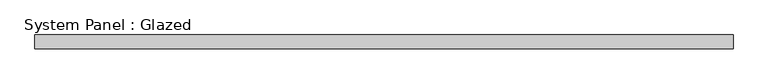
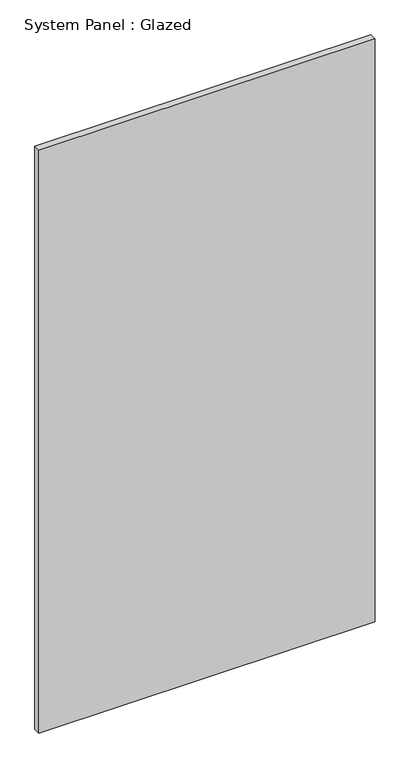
"""IFC4 building model written with IfcOpenShell, lengths in millimetres: plate geometry, System Panel : Glazed."""

from ifc_helpers import new_model, si_unit, origin, origin_with_axes, place, context, project, spatial, polyline, outline, extrude, source, transform, mapped, element, save


def system_panel_glazed_de5b064a(model_context):
    return source(origin(), model_context, "Body", "SweptSolid", [
        extrude(outline(polyline([(638.175, -44.45), (-638.175, -44.45), (-638.175, -19.05), (638.175, -19.05), (638.175, -44.45)])), origin_with_axes(), (0.0, 0.0, 1.0), 2336.8),
    ])


if __name__ == "__main__":
    model = new_model("IFC4")
    model_context = context("Model", 3, world=origin())
    ifc_project = project(units=[si_unit("LENGTHUNIT", "METRE", prefix="MILLI")], contexts=[model_context])
    site = spatial("IfcSite", under=ifc_project)
    building = spatial("IfcBuilding", under=site)
    placement = place(None, origin())
    system_panel_glazed_shape = system_panel_glazed_de5b064a(model_context)
    element("IfcPlate", 1, ObjectType="System Panel : Glazed", at=placement, inside=building, context=model_context, shape_type="MappedRepresentation", body=[
        mapped(system_panel_glazed_shape, transform((0.0, 0.0, 0.0), x_axis=(1.0, 0.0, 0.0), y_axis=(0.0, 1.0, 0.0), z_axis=(0.0, 0.0, 1.0))),
    ])
    save(model, "model.ifc")
